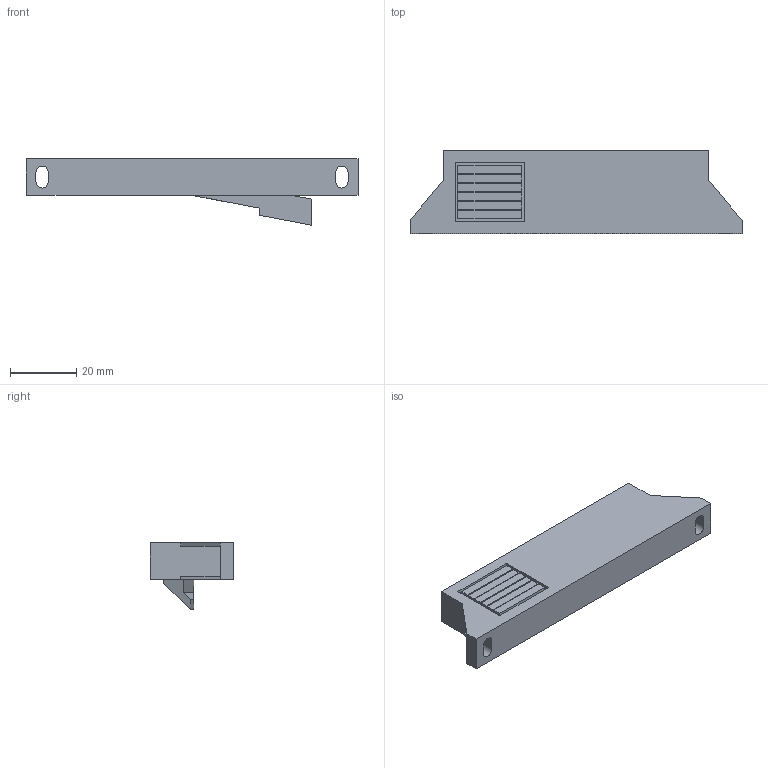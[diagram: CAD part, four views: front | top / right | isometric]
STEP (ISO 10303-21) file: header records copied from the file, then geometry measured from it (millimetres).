
FILE_DESCRIPTION (( 'STEP AP203' ), '1' );
FILE_NAME ('Vionaro V8 Innenschubmitnehmer.STEP', '2022-04-19T14:48:24', ( '' ), ( '' ), 'SwSTEP 2.0', 'SolidWorks 2021', '' );
FILE_SCHEMA (( 'CONFIG_CONTROL_DESIGN' ));
Length unit declared in the file: millimetre
Products named in the file (1): Vionaro V8 Innenschubmitnehmer
Bounding box: 100 x 25 x 20 mm (x, y, z)
Volume: 11985.4 mm3; surface area: 11138.6 mm2
Topology: 1 solids, 1 shells, 89 faces, 244 edges, 161 vertices
Faces by surface type: plane 79, cylinder 10
Entity records: 2871 total; most frequent: CARTESIAN_POINT 495, ORIENTED_EDGE 488, DIRECTION 444, EDGE_CURVE 244, LINE 224, VECTOR 224, VERTEX_POINT 161, AXIS2_PLACEMENT_3D 110
